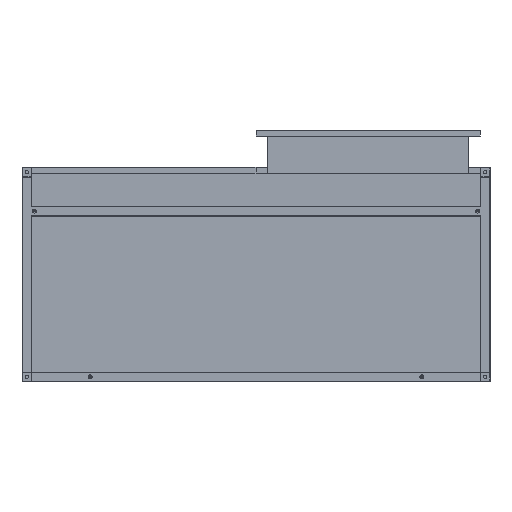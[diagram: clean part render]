
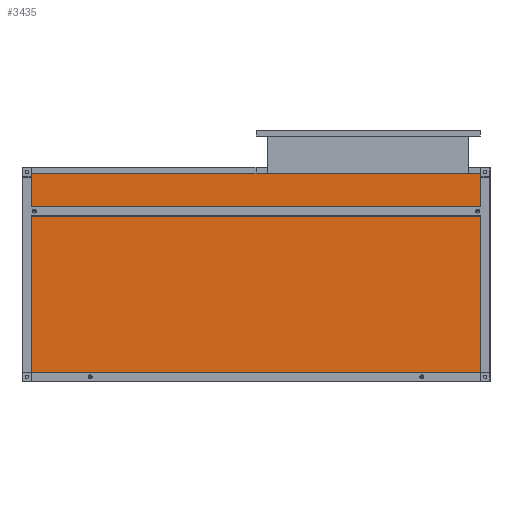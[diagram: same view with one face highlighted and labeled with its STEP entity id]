
A CAD part, front view. The second image highlights one B-rep face of the part: STEP entity #3435.
In plain terms, the highlighted planar face has unit normal (0, -1, 0).
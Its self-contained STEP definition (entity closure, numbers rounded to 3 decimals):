
#10 = DIRECTION ( 'NONE',  ( -1., 0., 0. ) ) ;
#425 = ORIENTED_EDGE ( 'NONE', *, *, #2075, .F. ) ;
#725 = VECTOR ( 'NONE', #10, 1000. ) ;
#910 = DIRECTION ( 'NONE',  ( 0., 0., 1. ) ) ;
#1372 = ORIENTED_EDGE ( 'NONE', *, *, #2218, .F. ) ;
#1817 = EDGE_CURVE ( 'Bordo1', #5723, #3049, #2306, .T. ) ;
#1986 = ORIENTED_EDGE ( 'NONE', *, *, #1817, .F. ) ;
#2075 = EDGE_CURVE ( 'NONE', #3049, #6383, #3317, .T. ) ;
#2218 = EDGE_CURVE ( 'NONE', #6383, #7251, #6310, .T. ) ;
#2306 = LINE ( 'NONE', #5715, #725 ) ;
#2644 = AXIS2_PLACEMENT_3D ( 'NONE', #2679, #6127, #910 ) ;
#2679 = CARTESIAN_POINT ( 'NONE',  ( 0., -250., 0. ) ) ;
#2879 = VECTOR ( 'NONE', #4664, 1000. ) ;
#3049 = VERTEX_POINT ( 'NONE', #7216 ) ;
#3317 = LINE ( 'NONE', #6722, #6101 ) ;
#3435 = ADVANCED_FACE ( 'NONE', ( #4927 ), #4402, .F. ) ;
#3436 = ORIENTED_EDGE ( 'NONE', *, *, #6506, .F. ) ;
#3544 = CARTESIAN_POINT ( 'NONE',  ( -575., -250., 535. ) ) ;
#3788 = DIRECTION ( 'NONE',  ( 0., 0., -1. ) ) ;
#4163 = CARTESIAN_POINT ( 'NONE',  ( 575., -250., 535. ) ) ;
#4402 = PLANE ( 'NONE',  #2644 ) ;
#4664 = DIRECTION ( 'NONE',  ( 1., 0., 0. ) ) ;
#4927 = FACE_OUTER_BOUND ( 'NONE', #7340, .T. ) ;
#5037 = LINE ( 'NONE', #6637, #5979 ) ;
#5121 = DIRECTION ( 'NONE',  ( 0., 0., 1. ) ) ;
#5230 = CARTESIAN_POINT ( 'NONE',  ( -575., -250., 535. ) ) ;
#5715 = CARTESIAN_POINT ( 'NONE',  ( -575., -250., 0. ) ) ;
#5723 = VERTEX_POINT ( 'NONE', #5998 ) ;
#5979 = VECTOR ( 'NONE', #3788, 1000. ) ;
#5998 = CARTESIAN_POINT ( 'NONE',  ( 575., -250., 0. ) ) ;
#6101 = VECTOR ( 'NONE', #5121, 1000. ) ;
#6127 = DIRECTION ( 'NONE',  ( 0., 1., 0. ) ) ;
#6310 = LINE ( 'NONE', #3544, #2879 ) ;
#6383 = VERTEX_POINT ( 'NONE', #5230 ) ;
#6506 = EDGE_CURVE ( 'NONE', #7251, #5723, #5037, .T. ) ;
#6637 = CARTESIAN_POINT ( 'NONE',  ( 575., -250., 0. ) ) ;
#6722 = CARTESIAN_POINT ( 'NONE',  ( -575., -250., 0. ) ) ;
#7216 = CARTESIAN_POINT ( 'NONE',  ( -575., -250., 0. ) ) ;
#7251 = VERTEX_POINT ( 'NONE', #4163 ) ;
#7340 = EDGE_LOOP ( 'NONE', ( #3436, #1372, #425, #1986 ) ) ;
